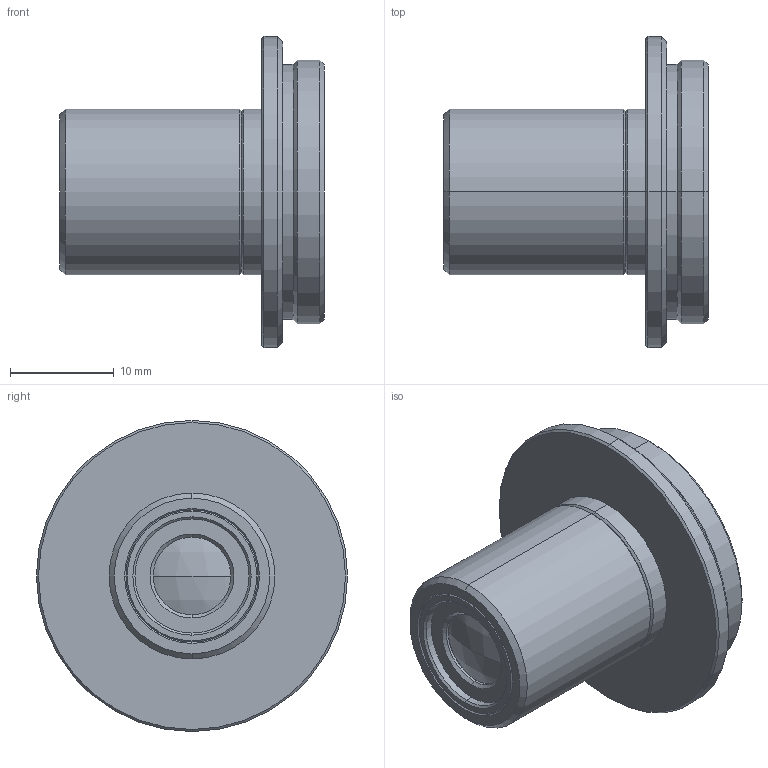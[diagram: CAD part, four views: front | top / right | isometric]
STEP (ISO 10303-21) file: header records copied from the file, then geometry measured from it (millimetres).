
FILE_DESCRIPTION (( 'STEP AP203' ), '1' );
FILE_NAME ('VS-MC01-330.STEP', '2014-10-29T04:23:48', ( 'miura_vst' ), ( '' ), 'SwSTEP 2.0', 'SolidWorks 2014', '' );
FILE_SCHEMA (( 'CONFIG_CONTROL_DESIGN' ));
Length unit declared in the file: millimetre
Products named in the file (1): VS-MC01-330
Bounding box: 25.48 x 30 x 30 mm (x, y, z)
Volume: 4769.3 mm3; surface area: 3617.9 mm2
Topology: 1 solids, 1 shells, 72 faces, 146 edges, 86 vertices
Faces by surface type: cone 36, cylinder 22, plane 10, sphere 4
Entity records: 1963 total; most frequent: DIRECTION 380, CARTESIAN_POINT 305, ORIENTED_EDGE 292, AXIS2_PLACEMENT_3D 161, EDGE_CURVE 146, CIRCLE 88, VERTEX_POINT 86, EDGE_LOOP 82
